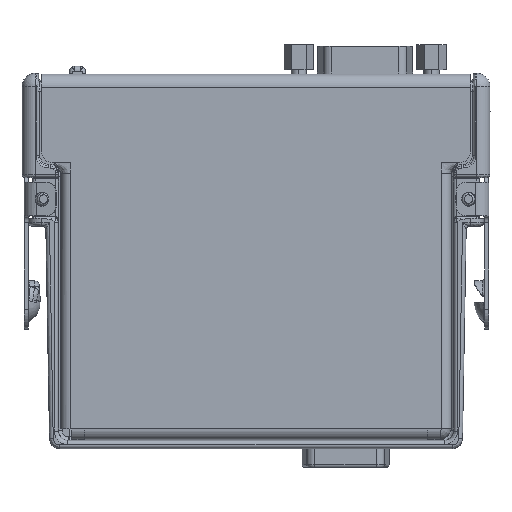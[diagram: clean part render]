
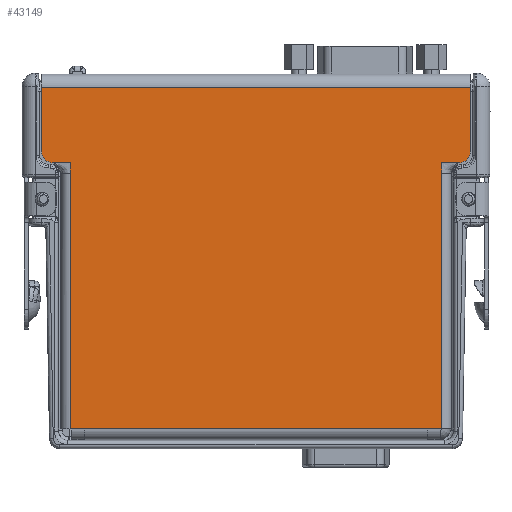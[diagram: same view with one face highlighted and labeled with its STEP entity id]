
A CAD part, left-side view. The second image highlights one B-rep face of the part: STEP entity #43149.
In plain terms, the highlighted planar face has unit normal (-1, 0, 0).
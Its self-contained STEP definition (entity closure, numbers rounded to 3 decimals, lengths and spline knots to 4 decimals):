
#14065=DIRECTION('',(0.,-1.,0.));
#14066=VECTOR('',#14065,3.179);
#14067=CARTESIAN_POINT('',(-0.4475,1.5895,2.676));
#14068=LINE('',#14067,#14066);
#14145=CARTESIAN_POINT('',(-0.4475,1.5095,2.2));
#14146=DIRECTION('',(-1.,0.,0.));
#14147=DIRECTION('',(0.,1.,0.));
#14148=AXIS2_PLACEMENT_3D('',#14145,#14146,#14147);
#14150=DIRECTION('',(0.,-1.,0.));
#14151=VECTOR('',#14150,0.133);
#14152=CARTESIAN_POINT('',(-0.4475,1.5095,2.12));
#14153=LINE('',#14152,#14151);
#14162=DIRECTION('',(0.,0.,-1.));
#14163=VECTOR('',#14162,0.476);
#14164=CARTESIAN_POINT('',(-0.4475,1.5895,2.676));
#14165=LINE('',#14164,#14163);
#14166=DIRECTION('',(0.,0.,1.));
#14167=VECTOR('',#14166,0.476);
#14168=CARTESIAN_POINT('',(-0.4475,-1.5895,2.2));
#14169=LINE('',#14168,#14167);
#14170=DIRECTION('',(0.,0.,1.));
#14171=VECTOR('',#14170,0.079);
#14172=CARTESIAN_POINT('',(-0.4475,-1.3765,2.041));
#14173=LINE('',#14172,#14171);
#14174=DIRECTION('',(0.,-1.,0.));
#14175=VECTOR('',#14174,0.105);
#14176=CARTESIAN_POINT('',(-0.4475,-1.2715,0.146));
#14177=LINE('',#14176,#14175);
#14178=DIRECTION('',(0.,-1.,0.));
#14179=VECTOR('',#14178,0.105);
#14180=CARTESIAN_POINT('',(-0.4475,1.3765,0.146));
#14181=LINE('',#14180,#14179);
#14182=DIRECTION('',(0.,0.,1.));
#14183=VECTOR('',#14182,0.079);
#14184=CARTESIAN_POINT('',(-0.4475,1.3765,2.041));
#14185=LINE('',#14184,#14183);
#14203=CARTESIAN_POINT('',(-0.4475,-1.5095,2.2));
#14204=DIRECTION('',(-1.,0.,0.));
#14205=DIRECTION('',(0.,0.,-1.));
#14206=AXIS2_PLACEMENT_3D('',#14203,#14204,#14205);
#14216=DIRECTION('',(0.,-1.,0.));
#14217=VECTOR('',#14216,0.133);
#14218=CARTESIAN_POINT('',(-0.4475,-1.3765,2.12));
#14219=LINE('',#14218,#14217);
#14251=DIRECTION('',(0.,0.,1.));
#14252=VECTOR('',#14251,1.895);
#14253=CARTESIAN_POINT('',(-0.4475,-1.3765,0.146));
#14254=LINE('',#14253,#14252);
#14442=DIRECTION('',(0.,-1.,0.));
#14443=VECTOR('',#14442,2.543);
#14444=CARTESIAN_POINT('',(-0.4475,1.2715,0.146));
#14445=LINE('',#14444,#14443);
#15994=DIRECTION('',(0.,0.,1.));
#15995=VECTOR('',#15994,1.895);
#15996=CARTESIAN_POINT('',(-0.4475,1.3765,0.146));
#15997=LINE('',#15996,#15995);
#22443=CARTESIAN_POINT('',(-0.4475,-1.5895,2.676));
#22444=VERTEX_POINT('',#22443);
#22445=CARTESIAN_POINT('',(-0.4475,1.5895,2.676));
#22446=VERTEX_POINT('',#22445);
#22475=CARTESIAN_POINT('',(-0.4475,1.2715,0.146));
#22476=CARTESIAN_POINT('',(-0.4475,-1.2715,0.146));
#22477=VERTEX_POINT('',#22475);
#22478=VERTEX_POINT('',#22476);
#22487=CARTESIAN_POINT('',(-0.4475,-1.3765,0.146));
#22488=VERTEX_POINT('',#22487);
#22499=CARTESIAN_POINT('',(-0.4475,1.3765,0.146));
#22500=VERTEX_POINT('',#22499);
#22548=CARTESIAN_POINT('',(-0.4475,1.5095,2.12));
#22550=VERTEX_POINT('',#22548);
#22553=CARTESIAN_POINT('',(-0.4475,1.5895,2.2));
#22554=VERTEX_POINT('',#22553);
#22556=CARTESIAN_POINT('',(-0.4475,-1.5895,2.2));
#22558=VERTEX_POINT('',#22556);
#22561=CARTESIAN_POINT('',(-0.4475,-1.5095,2.12));
#22562=VERTEX_POINT('',#22561);
#22583=CARTESIAN_POINT('',(-0.4475,-1.3765,2.041));
#22584=VERTEX_POINT('',#22583);
#22587=CARTESIAN_POINT('',(-0.4475,-1.3765,2.12));
#22588=VERTEX_POINT('',#22587);
#22595=CARTESIAN_POINT('',(-0.4475,1.3765,2.041));
#22596=CARTESIAN_POINT('',(-0.4475,1.3765,2.12));
#22597=VERTEX_POINT('',#22595);
#22598=VERTEX_POINT('',#22596);
#43117=CARTESIAN_POINT('',(-0.4475,0.,1.421));
#43118=DIRECTION('',(-1.,0.,0.));
#43119=DIRECTION('',(0.,1.,0.));
#43120=AXIS2_PLACEMENT_3D('',#43117,#43118,#43119);
#43121=PLANE('',#43120);
#43122=ORIENTED_EDGE('',*,*,#43098,.F.);
#43124=ORIENTED_EDGE('',*,*,#43123,.F.);
#43125=ORIENTED_EDGE('',*,*,#42964,.T.);
#43127=ORIENTED_EDGE('',*,*,#43126,.F.);
#43129=ORIENTED_EDGE('',*,*,#43128,.F.);
#43131=ORIENTED_EDGE('',*,*,#43130,.F.);
#43133=ORIENTED_EDGE('',*,*,#43132,.F.);
#43135=ORIENTED_EDGE('',*,*,#43134,.F.);
#43137=ORIENTED_EDGE('',*,*,#43136,.F.);
#43139=ORIENTED_EDGE('',*,*,#43138,.F.);
#43141=ORIENTED_EDGE('',*,*,#43140,.F.);
#43143=ORIENTED_EDGE('',*,*,#43142,.T.);
#43145=ORIENTED_EDGE('',*,*,#43144,.T.);
#43146=ORIENTED_EDGE('',*,*,#43109,.F.);
#43147=EDGE_LOOP('',(#43122,#43124,#43125,#43127,#43129,#43131,#43133,#43135,
#43137,#43139,#43141,#43143,#43145,#43146));
#43148=FACE_OUTER_BOUND('',#43147,.F.);
#43149=ADVANCED_FACE('',(#43148),#43121,.T.);
#14149=CIRCLE('',#14148,0.08);
#14207=CIRCLE('',#14206,0.08);
#42964=EDGE_CURVE('',#22446,#22444,#14068,.T.);
#43098=EDGE_CURVE('',#22554,#22550,#14149,.T.);
#43109=EDGE_CURVE('',#22550,#22598,#14153,.T.);
#43123=EDGE_CURVE('',#22446,#22554,#14165,.T.);
#43126=EDGE_CURVE('',#22558,#22444,#14169,.T.);
#43128=EDGE_CURVE('',#22562,#22558,#14207,.T.);
#43130=EDGE_CURVE('',#22588,#22562,#14219,.T.);
#43132=EDGE_CURVE('',#22584,#22588,#14173,.T.);
#43134=EDGE_CURVE('',#22488,#22584,#14254,.T.);
#43136=EDGE_CURVE('',#22478,#22488,#14177,.T.);
#43138=EDGE_CURVE('',#22477,#22478,#14445,.T.);
#43140=EDGE_CURVE('',#22500,#22477,#14181,.T.);
#43142=EDGE_CURVE('',#22500,#22597,#15997,.T.);
#43144=EDGE_CURVE('',#22597,#22598,#14185,.T.);
